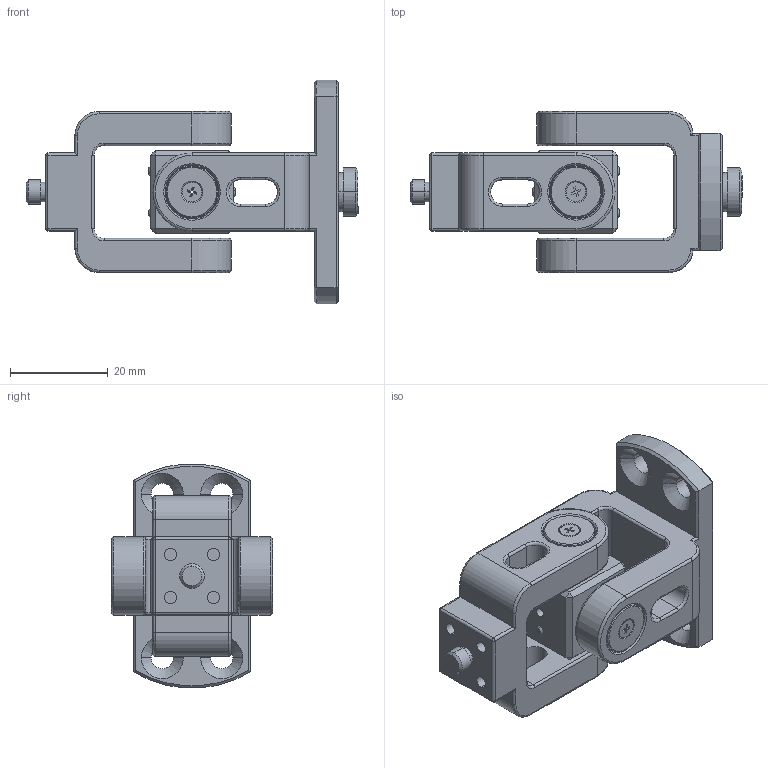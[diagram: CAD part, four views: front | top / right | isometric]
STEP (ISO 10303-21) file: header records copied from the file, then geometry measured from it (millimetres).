
FILE_DESCRIPTION (( 'STEP AP203' ), '1' );
FILE_NAME ('HJ-Y-01.STEP', '2022-04-08T08:30:10', ( 'Windows 蚚誧' ), ( '' ), 'SwSTEP 2.0', 'SolidWorks 2020', '' );
FILE_SCHEMA (( 'CONFIG_CONTROL_DESIGN' ));
Length unit declared in the file: millimetre
Products named in the file (1): HJ-Y-01
Bounding box: 68 x 33 x 45.86 mm (x, y, z)
Surface area: 12943.3 mm2 (no closed solid volume)
Topology: 0 solids, 21 shells, 368 faces, 934 edges, 586 vertices
Faces by surface type: cylinder 134, plane 128, cone 60, torus 34, bspline 8, sphere 4
Entity records: 11237 total; most frequent: CARTESIAN_POINT 2177, DIRECTION 2022, ORIENTED_EDGE 1692, EDGE_CURVE 926, AXIS2_PLACEMENT_3D 775, VERTEX_POINT 586, LINE 472, VECTOR 472
